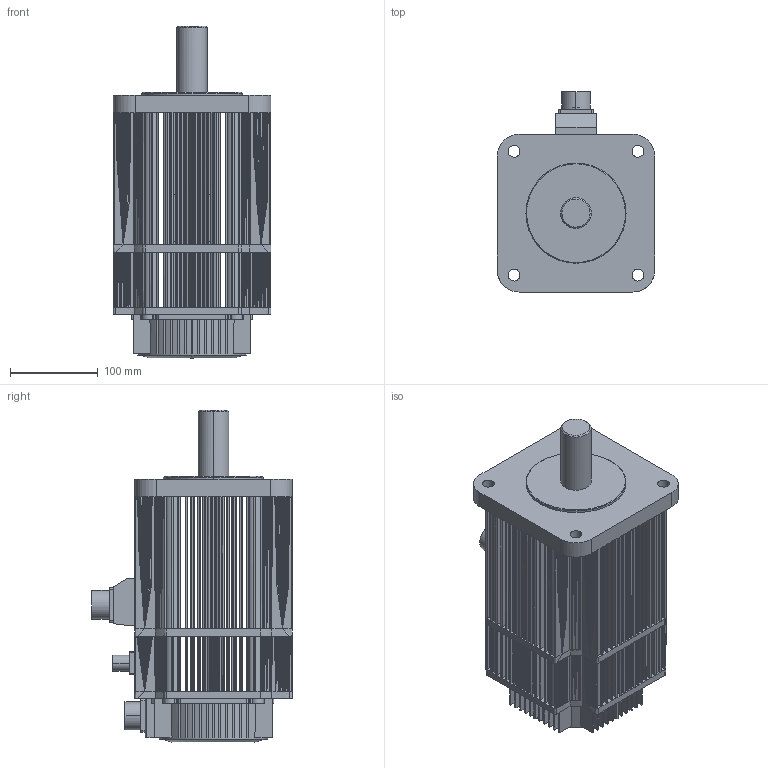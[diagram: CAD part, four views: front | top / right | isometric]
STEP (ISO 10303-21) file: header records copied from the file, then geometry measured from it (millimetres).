
FILE_DESCRIPTION (( 'STEP AP203' ), '1' );
FILE_NAME ('UMM-0030EAB-B3_UMM-0030CAB-B3.STEP', '2019-04-18T07:16:06', ( '' ), ( '' ), 'SwSTEP 2.0', 'SolidWorks 2017', '' );
FILE_SCHEMA (( 'CONFIG_CONTROL_DESIGN' ));
Length unit declared in the file: millimetre
Products named in the file (1): UMM-0030EAB-B3_UMM-0030CAB-B3
Bounding box: 180 x 229 x 379 mm (x, y, z)
Surface area: 491326.4 mm2 (no closed solid volume)
Topology: 0 solids, 9 shells, 1969 faces, 5340 edges, 3316 vertices
Faces by surface type: bspline 913, cylinder 862, plane 186, cone 8
Entity records: 64917 total; most frequent: CARTESIAN_POINT 22465, ORIENTED_EDGE 10226, DIRECTION 5901, EDGE_CURVE 5356, VERTEX_POINT 3323, LINE 2643, VECTOR 2643, B_SPLINE_CURVE_WITH_KNOTS 2137
